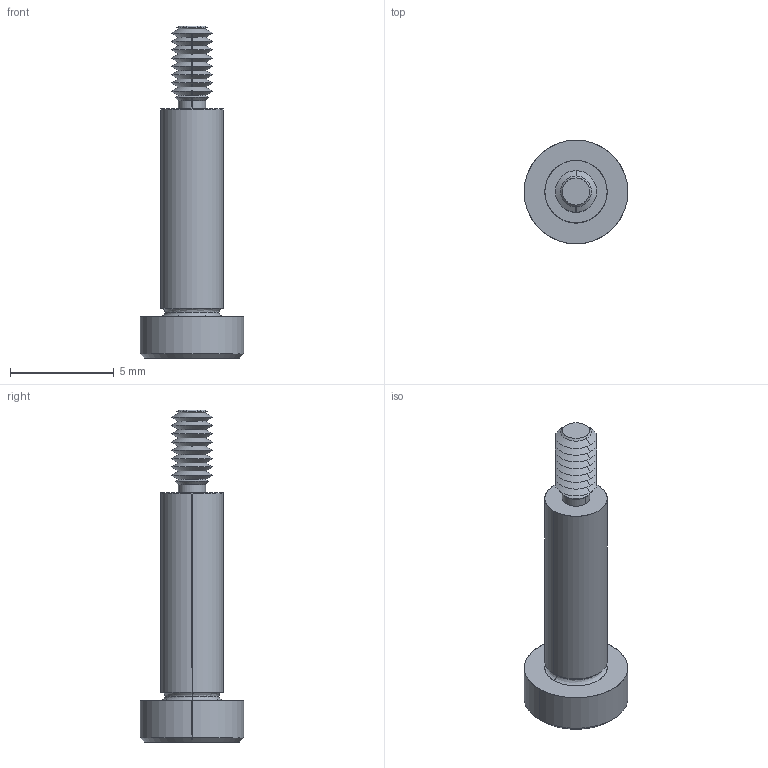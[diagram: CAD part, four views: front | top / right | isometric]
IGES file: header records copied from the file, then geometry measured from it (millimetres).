
Start section: SolidWorks IGES file using analytic representation for surfaces
Global section: file name: C:\Users\IanO\Documents\Temp Folder\GENERAL\SCREW REVISION\P0130_v2\P0130.T5_v2_20220106_IGES\P0130.030-010-T5.igs; native system: SolidWorks 2019; preprocessor: SolidWorks 2019; author: IanO; date: 220106.220045; units: millimetre
Bounding box: 5 x 5 x 16 mm (x, y, z)
Surface area: 210.5 mm2 (no closed solid volume)
Topology: 0 solids, 0 shells, 76 faces, 508 edges, 506 vertices
Faces by surface type: revolution 56, bspline 20
